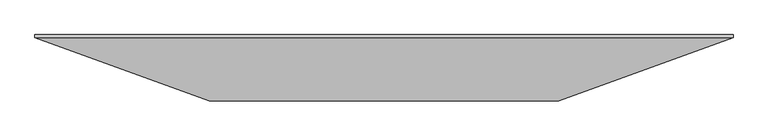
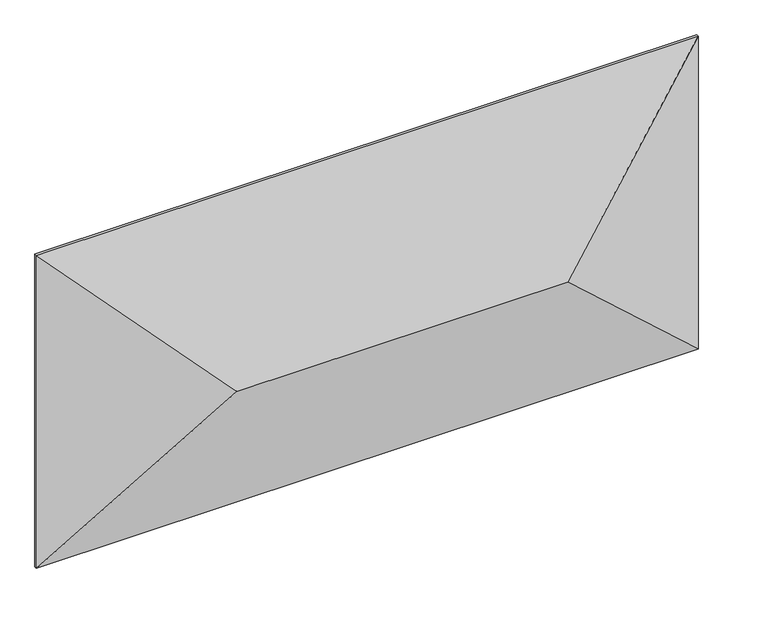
"""IFC4 building model written with IfcOpenShell, lengths in millimetres: proxy geometry, GRADIENT^TABLE 5_PRISM BASE-WORKSURFACE."""

from ifc_helpers import new_model, si_unit, origin, place, context, project, spatial, faceted_brep, source, transform, mapped, element, save


def generic_models_68fb9604(model_context):
    return source(origin(), model_context, "Body", "Brep", [
        faceted_brep([(609.6, -199.6512548, -609.6), (1828.8, -199.6512548, -609.6), (2438.4, 22.225, 0.0), (0.0, 22.225, 0.0), (2438.4, 31.75, 0.0), (2438.4, 31.75, -1219.2), (0.0, 31.75, -1219.2), (0.0, 31.75, 0.0), (0.0, 22.225, -1219.2), (2438.4, 22.225, -1219.2)], [[[0, 1, 2, 3]], [[4, 5, 6, 7]], [[1, 0, 8, 9]], [[1, 9, 2]], [[0, 3, 8]], [[2, 9, 5, 4]], [[9, 8, 6, 5]], [[8, 3, 7, 6]], [[3, 2, 4, 7]]]),
    ])


if __name__ == "__main__":
    model = new_model("IFC4")
    model_context = context("Model", 3, world=origin())
    ifc_project = project(units=[si_unit("LENGTHUNIT", "METRE", prefix="MILLI")], contexts=[model_context])
    site = spatial("IfcSite", under=ifc_project)
    building = spatial("IfcBuilding", under=site)
    placement = place(None, origin())
    generic_models_shape = generic_models_68fb9604(model_context)
    element("IfcBuildingElementProxy", 1, Name="GRADIENT^TABLE 5_PRISM BASE-WORKSURFACE", ObjectType="GRADIENT^TABLE 5_PRISM BASE-WORKSURFACE", at=placement, inside=building, context=model_context, shape_type="MappedRepresentation", body=[
        mapped(generic_models_shape, transform((0.0, 0.0, 0.0), x_axis=(1.0, 0.0, 0.0), y_axis=(0.0, 1.0, 0.0), z_axis=(0.0, 0.0, 1.0))),
    ])
    save(model, "model.ifc")
